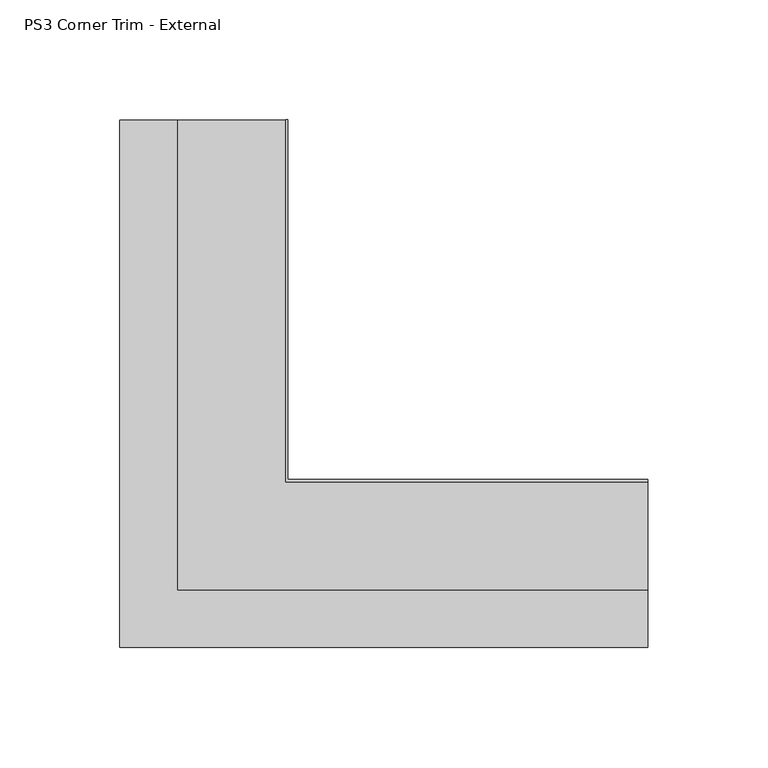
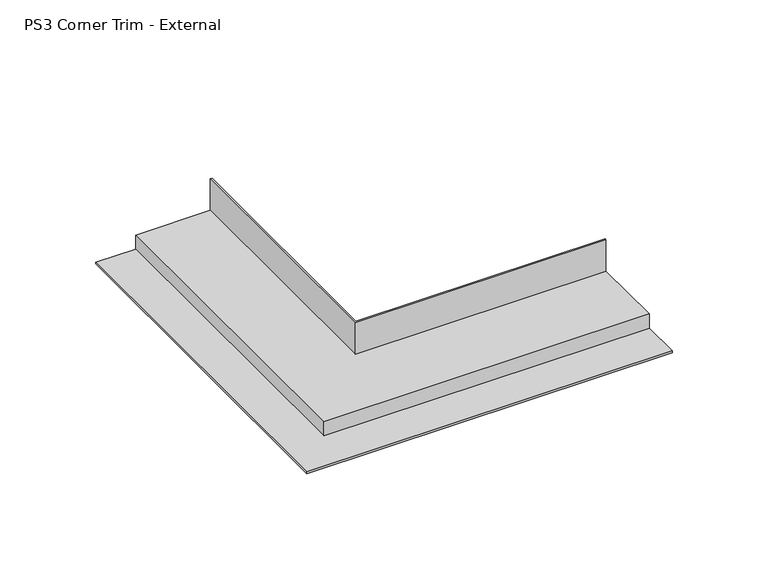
"""IFC4 building model written with IfcOpenShell, lengths in millimetres: proxy geometry, PS3 Corner Trim - External : Trims Pelican Systems Plaster Trim 35 x 35."""

import ifcopenshell
import ifcopenshell.guid

model = None  # the IFC model being written
_history = None  # IfcOwnerHistory: only IFC2X3 demands one
_inside = {}  # id of a spatial element -> (the spatial element, [elements in it])
_under = {}  # id of a project, library or spatial element -> (it, [spatial elements below it])
_declared = {}  # id of a project -> (the project, [libraries it declares])
_typed = {}  # id of a type object -> (the type object, [elements of that type])
_made_of = {}  # id of a material, layer set ... -> (it, [elements and type objects made of it])


def new_model(schema):
    """Start an empty IFC model of exactly this schema.

    Asked for "IFC4X3", IfcOpenShell would pick the latest addendum, in which some entities
    have other attributes; the version numbers below select the first issue.
    IFC2X3 requires an IfcOwnerHistory on every rooted entity: one is made here for all.
    """
    global model, _history
    if schema == "IFC4X3":
        model = ifcopenshell.file(schema_version=(4, 3, 0, 0))
    else:
        model = ifcopenshell.file(schema=schema)
    _inside.clear()
    _under.clear()
    _declared.clear()
    _typed.clear()
    _made_of.clear()
    _history = None
    if model.schema == "IFC2X3":
        org = make("IfcOrganization", Name="unknown")
        user = make(
            "IfcPersonAndOrganization",
            ThePerson=make("IfcPerson", FamilyName="unknown"),
            TheOrganization=org,
        )
        app = make(
            "IfcApplication",
            ApplicationDeveloper=org,
            Version="unknown",
            ApplicationFullName="unknown",
            ApplicationIdentifier="unknown",
        )
        _history = make(
            "IfcOwnerHistory",
            OwningUser=user,
            OwningApplication=app,
            ChangeAction="ADDED",
            CreationDate=0,
        )
    return model


def make(cls, **values):
    """One entity of the class cls with the attributes given. An attribute that is None is left unset."""
    return model.create_entity(
        cls, **{name: value for name, value in values.items() if value is not None}
    )


def rooted(cls, **values):
    """An entity with a GlobalId (a new one), such as an element, a storey or a relation."""
    return make(cls, GlobalId=ifcopenshell.guid.new(), OwnerHistory=_history, **values)


def si_unit(unit_type, name, prefix=None):
    """IfcSIUnit, for example si_unit("LENGTHUNIT", "METRE", prefix="MILLI")."""
    return make("IfcSIUnit", UnitType=unit_type, Prefix=prefix, Name=name)


def assignment(units):
    """IfcUnitAssignment: the units of a project."""
    return None if units is None else make("IfcUnitAssignment", Units=units)


def point(xyz):
    """IfcCartesianPoint."""
    return None if xyz is None else make("IfcCartesianPoint", Coordinates=xyz)


def direction(xyz):
    """IfcDirection."""
    return None if xyz is None else make("IfcDirection", DirectionRatios=xyz)


def frame(location, z_axis=None, x_axis=None):
    """IfcAxis2Placement3D, a coordinate frame: its origin and axes. An axis left out is left unset."""
    return make(
        "IfcAxis2Placement3D",
        Location=point(location),
        Axis=direction(z_axis),
        RefDirection=direction(x_axis),
    )


def origin():
    """The frame at (0, 0, 0) with its axes left unset."""
    return frame((0.0, 0.0, 0.0))


def place(relative_to, where):
    """IfcLocalPlacement: puts the frame where relative to a parent placement (None: the world)."""
    return make(
        "IfcLocalPlacement", PlacementRelTo=relative_to, RelativePlacement=where
    )


def context(
    kind, dimensions, precision=None, world=None, true_north=None, identifier=None
):
    """IfcGeometricRepresentationContext, for example the 3D "Model" context."""
    return make(
        "IfcGeometricRepresentationContext",
        ContextIdentifier=identifier,
        ContextType=kind,
        CoordinateSpaceDimension=dimensions,
        Precision=precision,
        WorldCoordinateSystem=world,
        TrueNorth=true_north,
    )


def project(units=None, contexts=None):
    """IfcProject with its units and contexts."""
    return rooted(
        "IfcProject",
        Name="project",
        RepresentationContexts=contexts,
        UnitsInContext=assignment(units),
    )


def spatial(cls, under=None, at=None, **own):
    """A site, building, storey or space (cls), placed at a placement, below another one or the project."""
    s = rooted(cls, ObjectPlacement=at, **own)
    if under is not None:
        _under.setdefault(under.id(), (under, []))[1].append(s)
    return s


def faces_of(points, faces, orient=None, outer=None):
    """IfcFace entities. A face is a list of loops; a loop is a list of indices into points, from 0.

    orient and outer hold one flag for each loop. By default every Orientation is true, the
    first loop of a face is its IfcFaceOuterBound and the others are IfcFaceBound.
    """
    made = []
    for i, loops in enumerate(faces):
        bounds = []
        for j, loop in enumerate(loops):
            is_outer = j == 0 if outer is None else outer[i][j]
            bounds.append(
                make(
                    "IfcFaceOuterBound" if is_outer else "IfcFaceBound",
                    Bound=make("IfcPolyLoop", Polygon=[points[k] for k in loop]),
                    Orientation=True if orient is None else orient[i][j],
                )
            )
        made.append(make("IfcFace", Bounds=bounds))
    return made


def faceted_brep(points, faces, orient=None, outer=None, voids=None):
    """IfcFacetedBrep: a solid bounded by flat faces; with voids (closed shells), ...WithVoids."""
    shared = [point(p) for p in points]
    hull = make("IfcClosedShell", CfsFaces=faces_of(shared, faces, orient, outer))
    if voids is None:
        return make("IfcFacetedBrep", Outer=hull)
    return make(
        "IfcFacetedBrepWithVoids",
        Outer=hull,
        Voids=[
            make(cls, CfsFaces=faces_of(shared, fs, o, b)) for cls, fs, o, b in voids
        ],
    )


def shape(context_of_items, identifier, shape_type, items):
    """IfcShapeRepresentation: the items that make up one representation, for example the "Body"."""
    return make(
        "IfcShapeRepresentation",
        ContextOfItems=context_of_items,
        RepresentationIdentifier=identifier,
        RepresentationType=shape_type,
        Items=items,
    )


def source(mapping_origin, context_of_items, identifier, shape_type, items):
    """IfcRepresentationMap: a shape defined once, which mapped items show again and again."""
    return make(
        "IfcRepresentationMap",
        MappingOrigin=mapping_origin,
        MappedRepresentation=shape(context_of_items, identifier, shape_type, items),
    )


def transform(
    local_origin,
    x_axis=None,
    y_axis=None,
    z_axis=None,
    scale=None,
    scale2=None,
    scale3=None,
    uniform=True,
):
    """IfcCartesianTransformationOperator3D, or its non-uniform kind. x_axis, y_axis, z_axis: its Axis1, 2, 3."""
    if uniform:
        return make(
            "IfcCartesianTransformationOperator3D",
            Axis1=direction(x_axis),
            Axis2=direction(y_axis),
            LocalOrigin=point(local_origin),
            Scale=scale,
            Axis3=direction(z_axis),
        )
    return make(
        "IfcCartesianTransformationOperator3DnonUniform",
        Axis1=direction(x_axis),
        Axis2=direction(y_axis),
        LocalOrigin=point(local_origin),
        Scale=scale,
        Axis3=direction(z_axis),
        Scale2=scale2,
        Scale3=scale3,
    )


def mapped(mapping_source, mapping_target):
    """IfcMappedItem: shows the shape of a source again, moved by a transform."""
    return make(
        "IfcMappedItem", MappingSource=mapping_source, MappingTarget=mapping_target
    )


def made_of(thing, what):
    """Note that an element or type object is made of a material, layer set ...; save() writes the relation."""
    if what is not None:
        _made_of.setdefault(what.id(), (what, []))[1].append(thing)
    return thing


def element(
    cls,
    number,
    at=None,
    inside=None,
    cuts=None,
    type_object=None,
    material=None,
    context=None,
    identifier="Body",
    shape_type=None,
    held_by="IfcProductDefinitionShape",
    body=None,
    shapes=None,
    **own,
):
    """One element of the class cls, such as IfcWall. Its Tag is "e" and its number.

    at: its placement. inside: the storey or other place that contains it. cuts: it is an
    opening in that element (IfcRelVoidsElement). A single representation is given by context,
    identifier, shape_type and body (its items); several are given by shapes. held_by: the class
    of the entity that holds the representations. save() writes the other relations.
    """
    e = rooted(cls, Tag="e%d" % number, ObjectPlacement=at, **own)
    if body is not None:
        shapes = [shape(context, identifier, shape_type, body)]
    if shapes is not None:
        e.Representation = make(held_by, Representations=shapes)
    if inside is not None:
        _inside.setdefault(inside.id(), (inside, []))[1].append(e)
    if cuts is not None:
        rooted(
            "IfcRelVoidsElement", RelatingBuildingElement=cuts, RelatedOpeningElement=e
        )
    if type_object is not None:
        _typed.setdefault(type_object.id(), (type_object, []))[1].append(e)
    return made_of(e, material)


def aggregate(whole, parts):
    """IfcRelAggregates: a whole, such as a stair, and the parts it consists of."""
    return rooted("IfcRelAggregates", RelatingObject=whole, RelatedObjects=parts)


def save(model, path):
    """Write the relations noted so far, then the file.

    IfcRelAggregates (storeys below a building ...), IfcRelContainedInSpatialStructure (elements
    in a storey), IfcRelDefinesByType, IfcRelAssociatesMaterial and IfcRelDeclares: one each for
    every whole, place, type object, material and project.
    """
    for whole, parts in _under.values():
        aggregate(whole, parts)
    for where, things in _inside.values():
        rooted(
            "IfcRelContainedInSpatialStructure",
            RelatedElements=things,
            RelatingStructure=where,
        )
    for kind, things in _typed.values():
        rooted("IfcRelDefinesByType", RelatedObjects=things, RelatingType=kind)
    for what, things in _made_of.values():
        rooted("IfcRelAssociatesMaterial", RelatedObjects=things, RelatingMaterial=what)
    for by, libraries in _declared.values():
        rooted("IfcRelDeclares", RelatingContext=by, RelatedDefinitions=libraries)
    model.write(path)


def ps3_corner_trim_external_f3c1cd9a(model_context):
    return source(origin(), model_context, "Body", "Brep", [
        faceted_brep([(30.0, 180.0, 21.0), (30.0, 180.0, 0.0), (-15.0, 180.0, 0.0), (-15.0, 180.0, -20.0), (-16.0, 180.0, -20.0), (-16.0, 180.0, -9.0), (-40.0, 180.0, -9.0), (-40.0, 180.0, -8.0), (-16.0, 180.0, -8.0), (-16.0, 180.0, 1.0), (29.0, 180.0, 1.0), (29.0, 180.0, 21.0), (180.0, 30.0, 21.0), (180.0, 29.0, 21.0), (180.0, 29.0, 1.0), (180.0, -16.0, 1.0), (180.0, -16.0, -8.0), (180.0, -40.0, -8.0), (180.0, -40.0, -9.0), (180.0, -16.0, -9.0), (180.0, -16.0, -20.0), (180.0, -15.0, -20.0), (180.0, -15.0, 0.0), (180.0, 30.0, 0.0), (30.0, 30.0, 0.0), (30.0, 30.0, 21.0), (-15.0, -15.0, -20.0), (-15.0, -15.0, 0.0), (-16.0, -16.0, 1.0), (-16.0, -16.0, -8.0), (29.0, 29.0, 21.0), (29.0, 29.0, 1.0), (-16.0, -16.0, -9.0), (-16.0, -16.0, -20.0), (-40.0, -40.0, -8.0), (-40.0, -40.0, -9.0)], [[[0, 1, 2, 3, 4, 5, 6, 7, 8, 9, 10, 11]], [[12, 13, 14, 15, 16, 17, 18, 19, 20, 21, 22, 23]], [[24, 25, 12, 23]], [[26, 27, 22, 21]], [[28, 29, 16, 15]], [[30, 31, 14, 13]], [[32, 33, 20, 19]], [[34, 35, 18, 17]], [[1, 0, 25, 24]], [[2, 1, 24, 23, 22, 27]], [[3, 2, 27, 26]], [[4, 3, 26, 21, 20, 33]], [[5, 4, 33, 32]], [[6, 5, 32, 19, 18, 35]], [[7, 6, 35, 34]], [[8, 7, 34, 17, 16, 29]], [[9, 8, 29, 28]], [[10, 9, 28, 15, 14, 31]], [[11, 10, 31, 30]], [[0, 11, 30, 13, 12, 25]]]),
    ])


if __name__ == "__main__":
    model = new_model("IFC4")
    model_context = context("Model", 3, world=origin())
    ifc_project = project(units=[si_unit("LENGTHUNIT", "METRE", prefix="MILLI")], contexts=[model_context])
    site = spatial("IfcSite", under=ifc_project)
    building = spatial("IfcBuilding", under=site)
    placement = place(None, origin())
    ps3_corner_trim_external_shape = ps3_corner_trim_external_f3c1cd9a(model_context)
    element("IfcBuildingElementProxy", 1, Name="PS3 Corner Trim - External : Trims Pelican Systems Plaster Trim 35 x 35", ObjectType="PS3 Corner Trim - External : Trims Pelican Systems Plaster Trim 35 x 35", at=placement, inside=building, context=model_context, shape_type="MappedRepresentation", body=[
        mapped(ps3_corner_trim_external_shape, transform((0.0, 0.0, 0.0), x_axis=(1.0, 0.0, 0.0), y_axis=(0.0, 1.0, 0.0), z_axis=(0.0, 0.0, 1.0))),
    ])
    save(model, "model.ifc")
